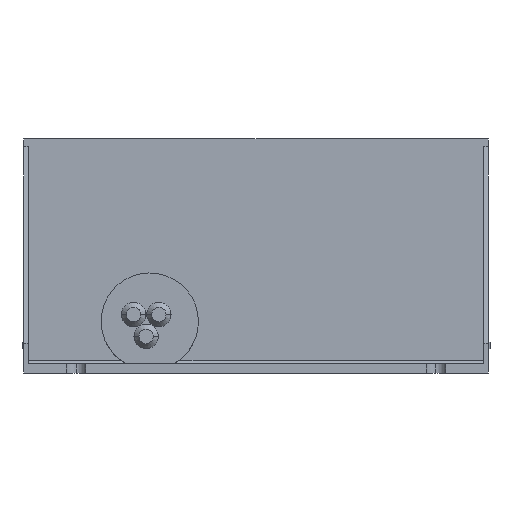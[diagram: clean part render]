
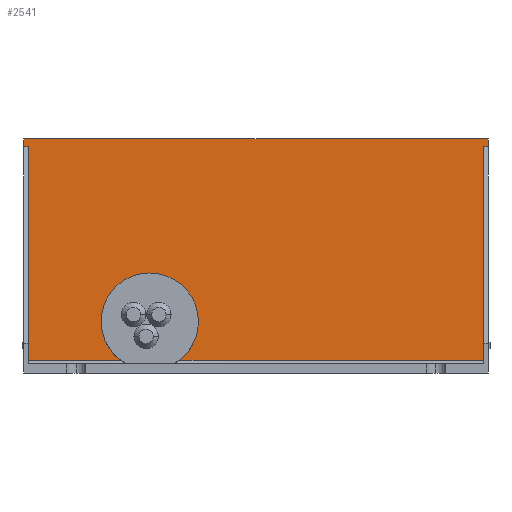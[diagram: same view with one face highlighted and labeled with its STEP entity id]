
A CAD part, front view. The second image highlights one B-rep face of the part: STEP entity #2541.
In plain terms, the highlighted planar face has unit normal (0, -1, 0).
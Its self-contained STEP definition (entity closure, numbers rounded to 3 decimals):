
#34 = VECTOR ( 'NONE', #3115, 1000. ) ;
#58 = ORIENTED_EDGE ( 'NONE', *, *, #4721, .F. ) ;
#184 = CARTESIAN_POINT ( 'NONE',  ( -64.5, -305., 65.001 ) ) ;
#203 = PLANE ( 'NONE',  #2944 ) ;
#275 = DIRECTION ( 'NONE',  ( 0., 1., 0. ) ) ;
#306 = CARTESIAN_POINT ( 'NONE',  ( 62.3, -305., 3.501 ) ) ;
#317 = LINE ( 'NONE', #4025, #2777 ) ;
#440 = VERTEX_POINT ( 'NONE', #1295 ) ;
#820 = CARTESIAN_POINT ( 'NONE',  ( -40.5, -305., 3.501 ) ) ;
#885 = VERTEX_POINT ( 'NONE', #184 ) ;
#888 = ORIENTED_EDGE ( 'NONE', *, *, #1039, .F. ) ;
#951 = VECTOR ( 'NONE', #3967, 1000. ) ;
#999 = DIRECTION ( 'NONE',  ( 0.945, 0., -0.326 ) ) ;
#1034 = AXIS2_PLACEMENT_3D ( 'NONE', #2258, #2154, #2123 ) ;
#1039 = EDGE_CURVE ( 'NONE', #6385, #440, #3486, .T. ) ;
#1193 = LINE ( 'NONE', #3193, #2735 ) ;
#1230 = EDGE_CURVE ( 'NONE', #4282, #6385, #4774, .T. ) ;
#1243 = DIRECTION ( 'NONE',  ( 0., 0., 1. ) ) ;
#1295 = CARTESIAN_POINT ( 'NONE',  ( -37.6, -305., 3.501 ) ) ;
#1305 = CARTESIAN_POINT ( 'NONE',  ( -63.3, -305., -26.799 ) ) ;
#1525 = DIRECTION ( 'NONE',  ( 0.945, 0., -0.326 ) ) ;
#1532 = DIRECTION ( 'NONE',  ( 0., -1., 0. ) ) ;
#1568 = CARTESIAN_POINT ( 'NONE',  ( -42.262, -305., 18.703 ) ) ;
#1579 = CARTESIAN_POINT ( 'NONE',  ( 64.5, -305., 65.001 ) ) ;
#1581 = EDGE_CURVE ( 'NONE', #5338, #885, #2133, .T. ) ;
#1743 = VECTOR ( 'NONE', #3114, 1000. ) ;
#1820 = CARTESIAN_POINT ( 'NONE',  ( -21.4, -305., 3.501 ) ) ;
#1873 = CARTESIAN_POINT ( 'NONE',  ( -16.738, -305., 9.899 ) ) ;
#1925 = ORIENTED_EDGE ( 'NONE', *, *, #3669, .T. ) ;
#2014 = ORIENTED_EDGE ( 'NONE', *, *, #2225, .T. ) ;
#2123 = DIRECTION ( 'NONE',  ( 0.945, 0., -0.326 ) ) ;
#2133 = LINE ( 'NONE', #1579, #34 ) ;
#2154 = DIRECTION ( 'NONE',  ( 0., -1., 0. ) ) ;
#2225 = EDGE_CURVE ( 'NONE', #5045, #5338, #317, .T. ) ;
#2258 = CARTESIAN_POINT ( 'NONE',  ( -29.5, -305., 14.301 ) ) ;
#2301 = VECTOR ( 'NONE', #2478, 1000. ) ;
#2325 = LINE ( 'NONE', #1305, #3764 ) ;
#2329 = DIRECTION ( 'NONE',  ( 0., 0., 1. ) ) ;
#2478 = DIRECTION ( 'NONE',  ( -1., 0., 0. ) ) ;
#2541 = ADVANCED_FACE ( 'NONE', ( #6173 ), #203, .F. ) ;
#2624 = CARTESIAN_POINT ( 'NONE',  ( -64.5, -305., 62.801 ) ) ;
#2735 = VECTOR ( 'NONE', #5355, 1000. ) ;
#2777 = VECTOR ( 'NONE', #1243, 1000. ) ;
#2854 = AXIS2_PLACEMENT_3D ( 'NONE', #5299, #1532, #999 ) ;
#2930 = VERTEX_POINT ( 'NONE', #6869 ) ;
#2944 = AXIS2_PLACEMENT_3D ( 'NONE', #3513, #275, #2329 ) ;
#2965 = AXIS2_PLACEMENT_3D ( 'NONE', #5184, #3556, #1525 ) ;
#3072 = VERTEX_POINT ( 'NONE', #5541 ) ;
#3104 = EDGE_LOOP ( 'NONE', ( #6609, #5645, #888, #6253, #3275, #58, #4081, #5950, #2014, #6664, #1925, #4183 ) ) ;
#3114 = DIRECTION ( 'NONE',  ( 0., 0., -1. ) ) ;
#3115 = DIRECTION ( 'NONE',  ( -1., 0., 0. ) ) ;
#3193 = CARTESIAN_POINT ( 'NONE',  ( 64.5, -305., 62.801 ) ) ;
#3275 = ORIENTED_EDGE ( 'NONE', *, *, #6416, .F. ) ;
#3404 = VECTOR ( 'NONE', #6298, 1000. ) ;
#3486 = CIRCLE ( 'NONE', #1034, 13.5 ) ;
#3513 = CARTESIAN_POINT ( 'NONE',  ( -29.5, -305., 14.301 ) ) ;
#3556 = DIRECTION ( 'NONE',  ( 0., -1., 0. ) ) ;
#3582 = VERTEX_POINT ( 'NONE', #4542 ) ;
#3669 = EDGE_CURVE ( 'NONE', #885, #2930, #4691, .T. ) ;
#3764 = VECTOR ( 'NONE', #4013, 1000. ) ;
#3967 = DIRECTION ( 'NONE',  ( -1., 0., 0. ) ) ;
#3974 = VERTEX_POINT ( 'NONE', #5566 ) ;
#4005 = EDGE_CURVE ( 'NONE', #5045, #5410, #1193, .T. ) ;
#4013 = DIRECTION ( 'NONE',  ( 0., 0., 1. ) ) ;
#4025 = CARTESIAN_POINT ( 'NONE',  ( 64.5, -305., 65.001 ) ) ;
#4068 = LINE ( 'NONE', #6838, #1743 ) ;
#4081 = ORIENTED_EDGE ( 'NONE', *, *, #4089, .F. ) ;
#4089 = EDGE_CURVE ( 'NONE', #5410, #3974, #4068, .T. ) ;
#4183 = ORIENTED_EDGE ( 'NONE', *, *, #5329, .T. ) ;
#4282 = VERTEX_POINT ( 'NONE', #1873 ) ;
#4542 = CARTESIAN_POINT ( 'NONE',  ( -63.3, -305., 62.801 ) ) ;
#4676 = LINE ( 'NONE', #2624, #3404 ) ;
#4691 = LINE ( 'NONE', #5216, #5097 ) ;
#4712 = CARTESIAN_POINT ( 'NONE',  ( 64.5, -305., 65.001 ) ) ;
#4721 = EDGE_CURVE ( 'NONE', #3974, #5153, #5632, .T. ) ;
#4774 = CIRCLE ( 'NONE', #2965, 13.5 ) ;
#4801 = EDGE_CURVE ( 'NONE', #3072, #3582, #2325, .T. ) ;
#5045 = VERTEX_POINT ( 'NONE', #6057 ) ;
#5097 = VECTOR ( 'NONE', #5181, 1000. ) ;
#5153 = VERTEX_POINT ( 'NONE', #1820 ) ;
#5181 = DIRECTION ( 'NONE',  ( 0., 0., -1. ) ) ;
#5184 = CARTESIAN_POINT ( 'NONE',  ( -29.5, -305., 14.301 ) ) ;
#5216 = CARTESIAN_POINT ( 'NONE',  ( -64.5, -305., 65.001 ) ) ;
#5299 = CARTESIAN_POINT ( 'NONE',  ( -29.5, -305., 14.301 ) ) ;
#5329 = EDGE_CURVE ( 'NONE', #2930, #3582, #4676, .T. ) ;
#5338 = VERTEX_POINT ( 'NONE', #4712 ) ;
#5355 = DIRECTION ( 'NONE',  ( -1., 0., 0. ) ) ;
#5410 = VERTEX_POINT ( 'NONE', #5415 ) ;
#5415 = CARTESIAN_POINT ( 'NONE',  ( 63.3, -305., 62.801 ) ) ;
#5541 = CARTESIAN_POINT ( 'NONE',  ( -63.3, -305., 3.501 ) ) ;
#5566 = CARTESIAN_POINT ( 'NONE',  ( 63.3, -305., 3.501 ) ) ;
#5617 = LINE ( 'NONE', #820, #2301 ) ;
#5632 = LINE ( 'NONE', #306, #951 ) ;
#5645 = ORIENTED_EDGE ( 'NONE', *, *, #6287, .F. ) ;
#5906 = CIRCLE ( 'NONE', #2854, 13.5 ) ;
#5950 = ORIENTED_EDGE ( 'NONE', *, *, #4005, .F. ) ;
#6057 = CARTESIAN_POINT ( 'NONE',  ( 64.5, -305., 62.801 ) ) ;
#6173 = FACE_OUTER_BOUND ( 'NONE', #3104, .T. ) ;
#6253 = ORIENTED_EDGE ( 'NONE', *, *, #1230, .F. ) ;
#6287 = EDGE_CURVE ( 'NONE', #440, #3072, #5617, .T. ) ;
#6298 = DIRECTION ( 'NONE',  ( 1., 0., 0. ) ) ;
#6385 = VERTEX_POINT ( 'NONE', #1568 ) ;
#6416 = EDGE_CURVE ( 'NONE', #5153, #4282, #5906, .T. ) ;
#6609 = ORIENTED_EDGE ( 'NONE', *, *, #4801, .F. ) ;
#6664 = ORIENTED_EDGE ( 'NONE', *, *, #1581, .T. ) ;
#6838 = CARTESIAN_POINT ( 'NONE',  ( 63.3, -305., -12.199 ) ) ;
#6869 = CARTESIAN_POINT ( 'NONE',  ( -64.5, -305., 62.801 ) ) ;
